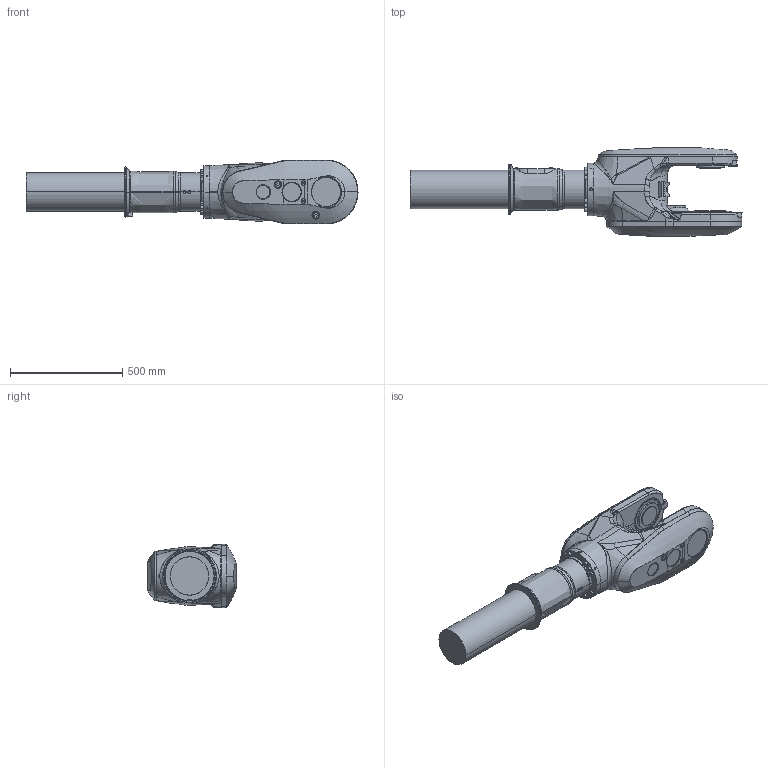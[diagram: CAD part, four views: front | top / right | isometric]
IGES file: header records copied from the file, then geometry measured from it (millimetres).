
Start section: SolidWorks IGES file using analytic representation for surfaces
Global section: file name: C:\DATA\SAP_DOC\LW\IRB 6730S\IRB6730S_270kg-310_OC_01_SW_J\export\IRB6730S_270kg-310_OC_01_IGES_J\IRB6730S_All-310_OC_00_LINK04_CAD.igs; native system: SolidWorks 2024; preprocessor: SolidWorks 2024; author: SEJOVAS3; date: 260526.123802; units: millimetre
Bounding box: 1477.5 x 395.55 x 284 mm (x, y, z)
Surface area: 1380043.9 mm2 (no closed solid volume)
Topology: 0 solids, 0 shells, 727 faces, 14194 edges, 14169 vertices
Faces by surface type: bspline 426, revolution 301
